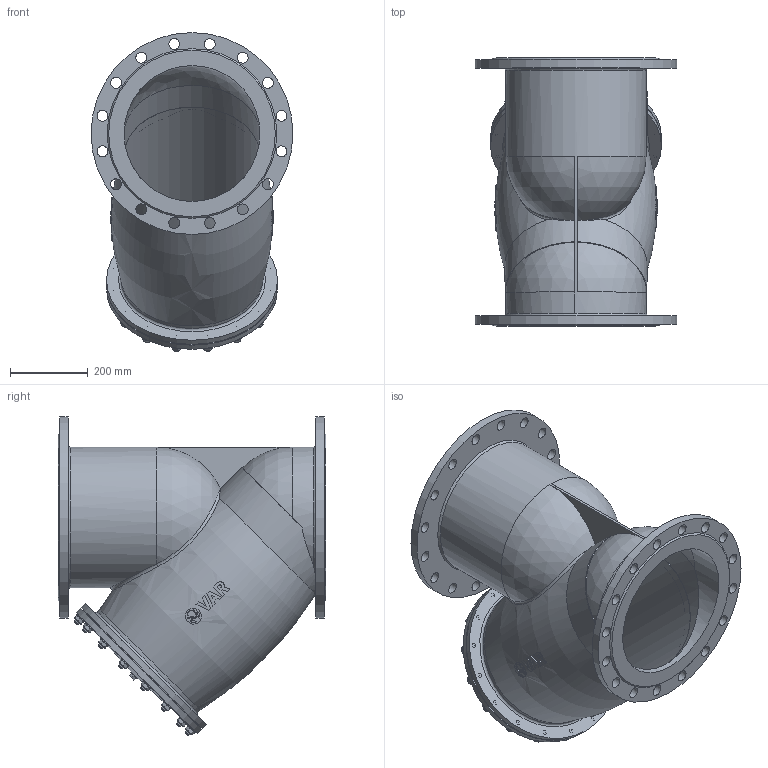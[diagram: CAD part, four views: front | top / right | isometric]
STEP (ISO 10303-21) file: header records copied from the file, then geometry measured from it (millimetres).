
FILE_DESCRIPTION(('STEP AP203'), '1');
FILE_NAME('VAR STRAINER ôèëüòð-ãðÿçåóëîâèòåëü', '', ('UNSPECIFIED'), ('UNSPECIFIED'), 'C3D Converter', 'C3D Toolkit', '');
FILE_SCHEMA(('CONFIG_CONTROL_DESIGN'));
Length unit declared in the file: millimetre
Assembly tree (53 placements, depth 2):
  (unnamed)
    (unnamed)
    (unnamed)
    (unnamed)  x16
    (unnamed)  x16
    (unnamed)  x16
    (unnamed)
    (unnamed)
    (unnamed)
Bounding box: 520 x 690 x 821.2 mm (x, y, z)
Volume: 16266910.4 mm3; surface area: 4211052 mm2
Topology: 54 solids, 54 shells, 806 faces, 1912 edges, 1245 vertices
Faces by surface type: plane 323, extrusion 172, cylinder 154, cone 116, torus 27, sphere 8, bspline 6
Full cylindrical faces by diameter (mm): 14 x48, 15 x16, 16 x18, 24 x1, 28 x48, 40.925 x1, 350 x6, 354 x3, 362 x1, 366 x1, 376 x1, 378 x2, 440 x2, 520 x2
Entity records: 33305 total; most frequent: CARTESIAN_POINT 18831, ORIENTED_EDGE 2220, DIRECTION 1737, EDGE_CURVE 1110, VERTEX_POINT 806, EDGE_LOOP 738, B_SPLINE_CURVE_WITH_KNOTS 687, AXIS2_PLACEMENT_3D 630
